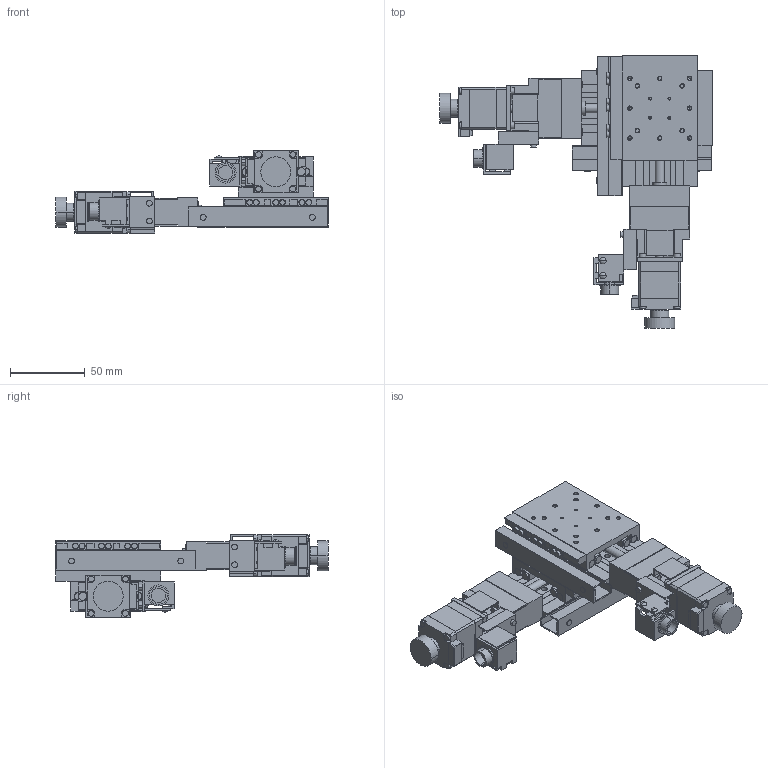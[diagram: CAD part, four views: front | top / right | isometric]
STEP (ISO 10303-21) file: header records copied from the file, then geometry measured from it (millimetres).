
FILE_DESCRIPTION(('STEP AP203'),'1');
FILE_NAME('C:/3D-Trans/3D_PMG530M-L□-C4+240122.step','2024-02-27T00:17:24',(' '),(' '),'Spatial InterOp 3D',' ',' ');
FILE_SCHEMA(('CONFIG_CONTROL_DESIGN'));
Length unit declared in the file: millimetre
Products named in the file (13): 1; 2; 3; 4; 5; 6; 7; 8; 9; 10; 11; 12; 13
Bounding box: 182 x 182 x 55 mm (x, y, z)
Volume: 262639.1 mm3; surface area: 132735 mm2
Topology: 13 solids, 13 shells, 1584 faces, 4072 edges, 2584 vertices
Faces by surface type: plane 928, cylinder 488, cone 160, sphere 8
Entity records: 48746 total; most frequent: CARTESIAN_POINT 8645, DIRECTION 8468, ORIENTED_EDGE 8048, EDGE_CURVE 4024, AXIS2_PLACEMENT_3D 2879, LINE 2710, VECTOR 2710, VERTEX_POINT 2584
